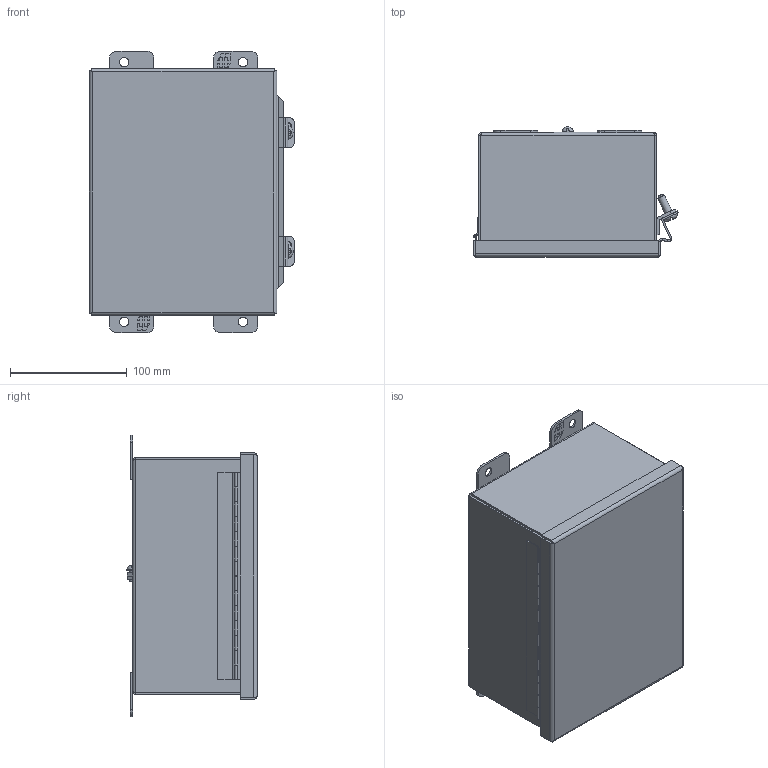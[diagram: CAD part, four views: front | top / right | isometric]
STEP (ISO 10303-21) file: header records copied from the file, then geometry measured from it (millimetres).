
FILE_DESCRIPTION(/* description */ ('Unknown'),/* implementation_level */ '2;1');
FILE_NAME(/* name */ '1414N4PHSSG4',/* time_stamp */ '2018-11-22T12:45:53-05:00',/* author */ ('Unknown'),/* organization */ ('Unknown'),/* preprocessor_version */ 'ST-DEVELOPER v16.7',/* originating_system */ 'DEX',/* authorisation */ $);
FILE_SCHEMA (('AUTOMOTIVE_DESIGN {1 0 10303 214 3 1 1}'));
Length unit declared in the file: millimetre
Products named in the file (22): 1414N4PHSSG4; COM42863; COM50851; STD26154; COM52631; COM42961; QLB20278; KIT90770; LAB30005; NTS16500; NTS17050; scs18968; COM42953; HNG14586-7C; STD26202; BUL10020; COM70220_oa_0; scs19420; HNG14586-7P; COM40176; HNG14586-7B
Assembly tree (31 placements, depth 3):
  1414N4PHSSG4
    COM42863
    COM50851  x4
    STD26154  x4
    COM52631  x2
    COM42961
    QLB20278
    KIT90770
      LAB30005
      NTS16500
      NTS17050
      scs18968
    COM42953
      HNG14586-7C
      STD26202
      COM42953
    STD26202
    BUL10020
    COM70220_oa_0
    scs19420  x2
    HNG14586-7P
    COM40176  x2
    HNG14586-7B
Bounding box: 175.56 x 111.49 x 241.3 mm (x, y, z)
Volume: 382312.2 mm3; surface area: 433261 mm2
Topology: 27 solids, 28 shells, 815 faces, 2062 edges, 1324 vertices
Faces by surface type: plane 544, cylinder 176, bspline 49, cone 34, torus 12
Full cylindrical faces by diameter (mm): 1.143 x1, 3.967 x6, 4.699 x1, 4.826 x2, 5.41 x2, 6.35 x4, 6.731 x4, 7.938 x4, 9.525 x4, 9.779 x1, 12.192 x2
Entity records: 19329 total; most frequent: CARTESIAN_POINT 5290, ORIENTED_EDGE 2838, DIRECTION 2670, EDGE_CURVE 1419, LINE 932, VECTOR 932, VERTEX_POINT 918, AXIS2_PLACEMENT_3D 869
